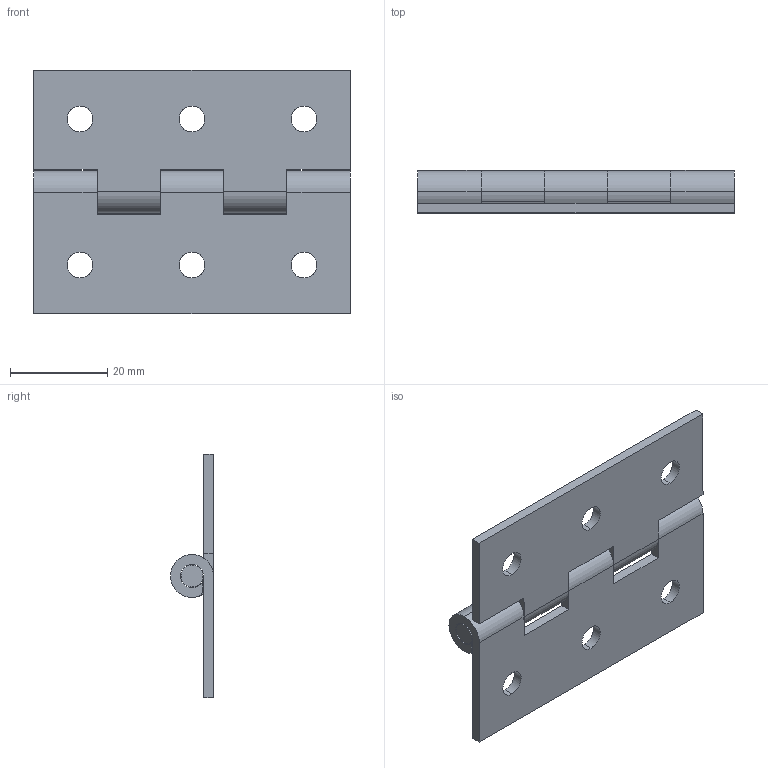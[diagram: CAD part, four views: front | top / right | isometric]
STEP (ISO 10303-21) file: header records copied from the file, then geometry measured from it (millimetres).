
FILE_DESCRIPTION (( 'STEP AP203' ), '1' );
FILE_NAME ('B18-18783.STEP', '2024-10-24T09:22:14', ( '' ), ( '' ), 'SwSTEP 2.0', 'SolidWorks 2021', '' );
FILE_SCHEMA (( 'CONFIG_CONTROL_DESIGN' ));
Length unit declared in the file: millimetre
Products named in the file (4): B18-107813-2; B18-18783; B18-107813-1; B18-4.5-65
Assembly tree (3 placements, depth 2):
  B18-18783
    B18-4.5-65
    B18-107813-1
    B18-107813-2
Bounding box: 65 x 8.8 x 50.01 mm (x, y, z)
Volume: 9068.2 mm3; surface area: 10405.8 mm2
Topology: 3 solids, 3 shells, 79 faces, 219 edges, 146 vertices
Faces by surface type: cylinder 44, plane 35
Entity records: 2987 total; most frequent: CARTESIAN_POINT 486, DIRECTION 453, ORIENTED_EDGE 438, EDGE_CURVE 219, AXIS2_PLACEMENT_3D 161, VERTEX_POINT 146, VECTOR 131, LINE 131
